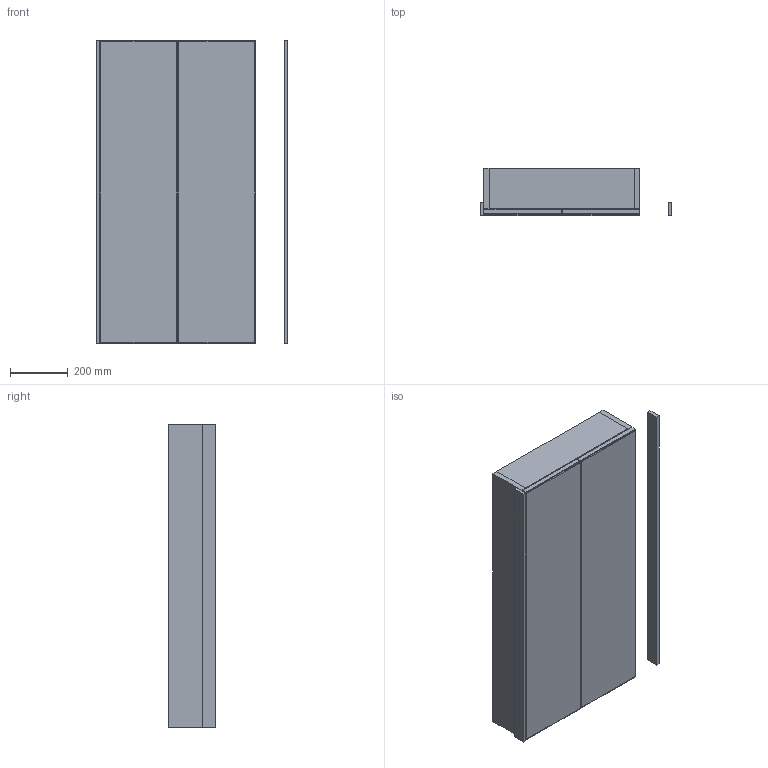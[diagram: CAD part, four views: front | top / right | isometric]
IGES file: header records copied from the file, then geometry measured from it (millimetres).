
Start section: Data from Parasolid IGES Translator 19.0.9, Copyright(c) 2006 Siemens PL M Software. All Rights Reserved.
Global section: file name: noorth-mirror-H 105 D 4,5-16 W 54_9138.igs; native system: By Siemens PLM Incorporated; preprocessor: XPlus GENERIC/IGES 19.0.9; author: Noname; organization: Noname; date: 20200519.105806; units: metre
Bounding box: 663.82 x 162 x 1050 mm (x, y, z)
Volume: 22980347.9 mm3; surface area: 5038263.4 mm2
Topology: 15 solids, 15 shells, 194 faces, 372 edges, 208 vertices
Faces by surface type: plane 194
